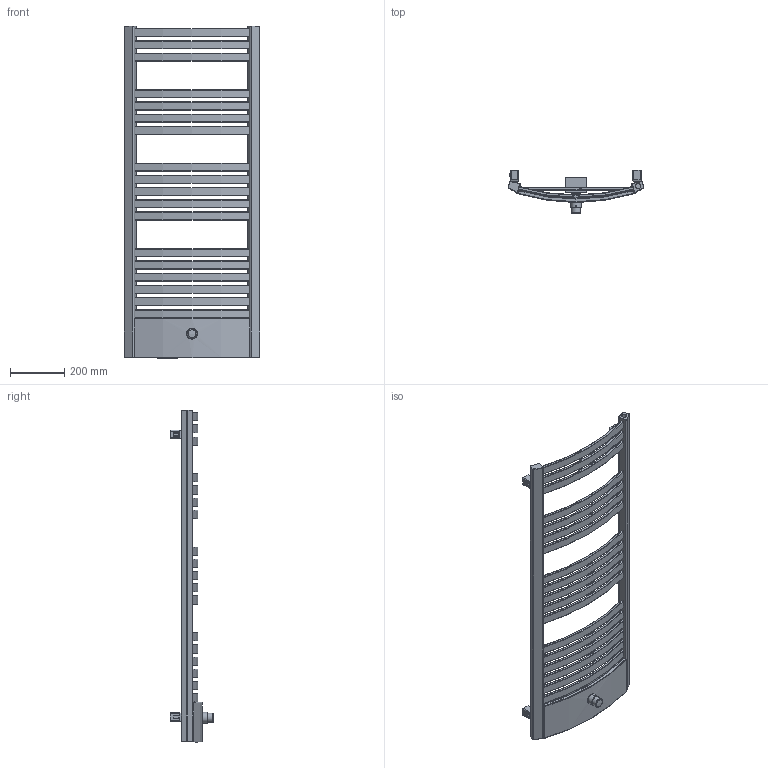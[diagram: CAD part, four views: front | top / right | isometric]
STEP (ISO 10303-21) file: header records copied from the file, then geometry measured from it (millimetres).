
FILE_DESCRIPTION((''),'2;1');
FILE_NAME('Z:\R\G\P\RGPH08 - Grzejnik Dexter pro\Work\Inventor\Dexter Pro v6.1\Marketing\STEP\DP-12-50-ZX.stp','2012-07-24T09:25:52',('PioRo'),(''),'Autodesk Inventor 2012','Autodesk Inventor 2012','');
FILE_SCHEMA(('AUTOMOTIVE_DESIGN { 1 0 10303 214 1 1 1 1 }'));
Length unit declared in the file: millimetre
Products named in the file (1): Część1
Bounding box: 500.11 x 158.48 x 1222 mm (x, y, z)
Volume: 5729320 mm3; surface area: 1194654.5 mm2
Topology: 1 solids, 4 shells, 599 faces, 1563 edges, 993 vertices
Faces by surface type: plane 257, cylinder 191, torus 111, bspline 32, cone 6, sphere 2
Full cylindrical faces by diameter (mm): 7 x3, 18.631 x3, 32.4 x1, 33 x1, 34 x2, 35 x2, 36 x1, 36.4 x1, 36.6 x1, 37.2 x1, 40 x1
Entity records: 21208 total; most frequent: CARTESIAN_POINT 6141, ORIENTED_EDGE 3054, DIRECTION 2913, EDGE_CURVE 1527, AXIS2_PLACEMENT_3D 1070, VERTEX_POINT 982, VECTOR 773, LINE 773
